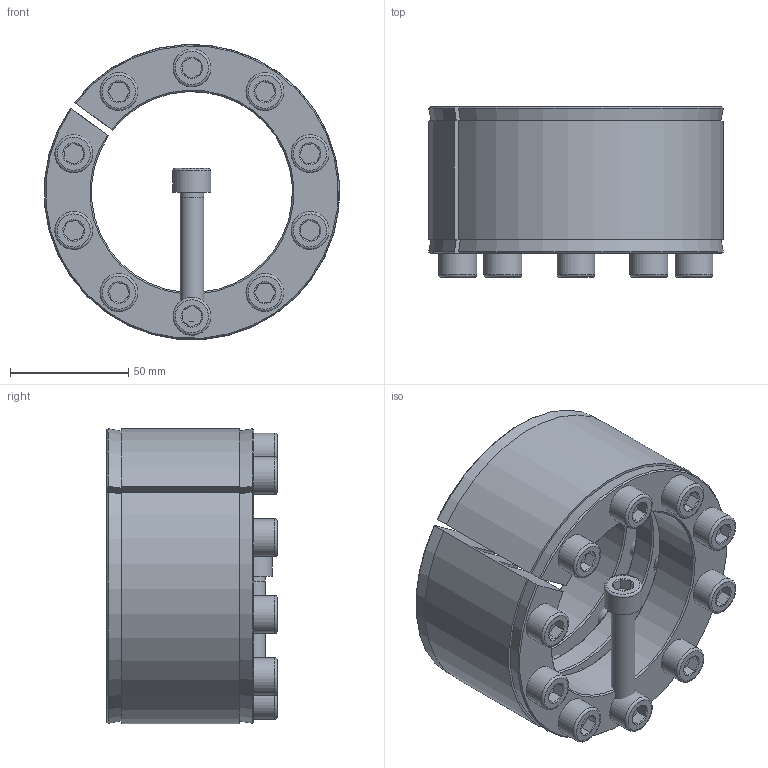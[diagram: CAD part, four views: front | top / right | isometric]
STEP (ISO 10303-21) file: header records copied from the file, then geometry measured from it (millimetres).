
FILE_DESCRIPTION( ( 'Unknown' ), '1' );
FILE_NAME( 'C:/Users/Frank/Eigene Daten/CAD/Solid Edge/KBK Karpstein/KBS Layout Baureihen/KBS 18/KBS - 85 x 125.stp', 'Unknown', ( 'Unknown' ), ( 'Unknown' ), 'XStep 1.0', 'Unknown', ' ' );
FILE_SCHEMA( ( 'automotive_design' ) );
Length unit declared in the file: millimetre
Products named in the file (3): Assem1; ISO EN DIN 4762 M10x55; KBS 18 - 85 x 125
Bounding box: 124.65 x 72 x 124.73 mm (x, y, z)
Volume: 682913.1 mm3; surface area: 205107.9 mm2
Topology: 13 solids, 13 shells, 407 faces, 917 edges, 540 vertices
Faces by surface type: plane 172, cylinder 112, cone 101, torus 22
Full cylindrical faces by diameter (mm): 8.376 x20, 9 x11, 10 x22, 11 x40, 16 x11
Entity records: 3666 total; most frequent: CARTESIAN_POINT 719, DIRECTION 524, ORIENTED_EDGE 434, AXIS2_PLACEMENT_3D 244, EDGE_CURVE 217, EDGE_LOOP 172, VERTEX_POINT 151, CIRCLE 141
